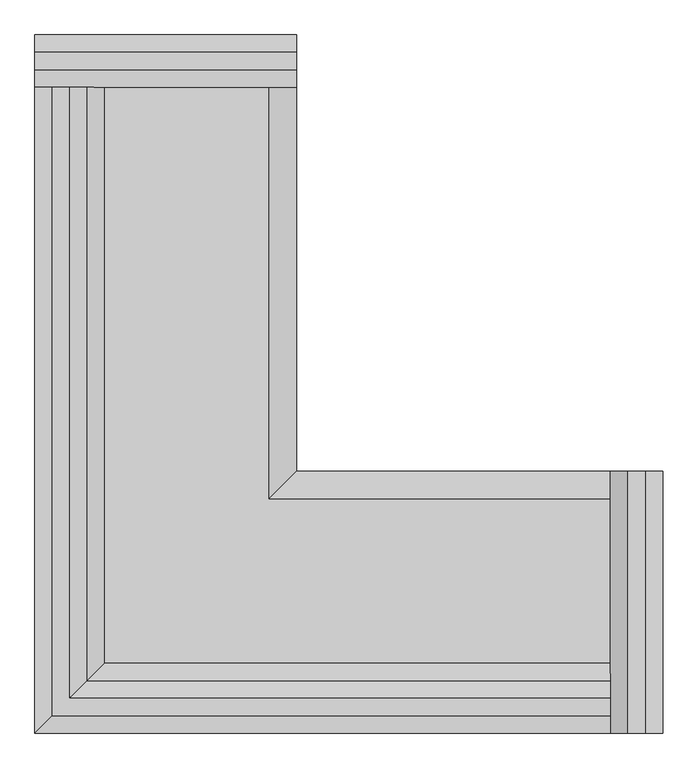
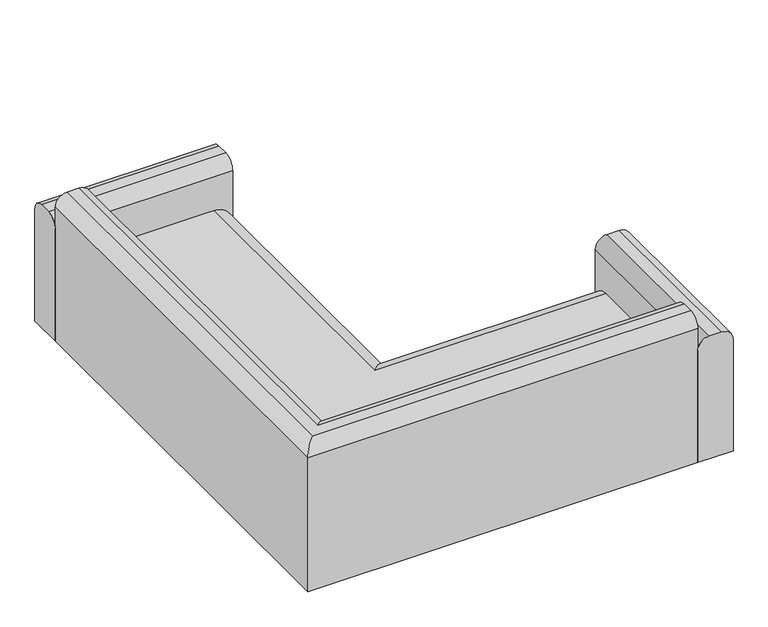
"""IFC4 building model written with IfcOpenShell, lengths in millimetres: furniture geometry, L 型长沙发 : W1800*D1800."""

from ifc_helpers import new_model, si_unit, point, frame, frame_2d, origin, place, context, project, spatial, polyline, circle_curve, ellipse_curve, trimmed, segment, composite_curve, outline, extrude, source, transform, mapped, element, save
from ifc_brep_helpers import plane_surface, cylinder_surface, advanced_brep


def furniture_34d979e8(model_context):
    return source(origin(), model_context, "Body", "SolidModel", [
        extrude(outline(composite_curve([segment(polyline([(900.0, 550.0), (950.0, 550.0)]), True, "CONTINUOUS"), segment(trimmed(circle_curve(frame_2d((950.0, 500.0)), 50.0), [point((950.0, 550.0))], [point((1000.0, 500.0))], False, "CARTESIAN"), True, "CONTINUOUS"), segment(polyline([(1000.0, 500.0), (1000.0, 0.0), (850.0, 0.0), (850.0, 500.0)]), True, "CONTINUOUS"), segment(trimmed(circle_curve(frame_2d((900.0, 500.0)), 50.0), [point((850.0, 500.0))], [point((900.0, 550.0))], False, "CARTESIAN"), True, "CONTINUOUS")], self_intersect=False)), frame((-900.0, 0.0, 0.0), z_axis=(1.0, 0.0, 0.0), x_axis=(0.0, 1.0, 0.0)), (0.0, 0.0, 1.0), 750.0),
        extrude(outline(composite_curve([segment(polyline([(550.0, 850.0), (550.0, 800.0)]), True, "CONTINUOUS"), segment(trimmed(circle_curve(frame_2d((500.0, 800.0)), 50.0), [point((550.0, 800.0))], [point((500.0, 750.0))], False, "CARTESIAN"), True, "CONTINUOUS"), segment(polyline([(500.0, 750.0), (0.0, 750.0), (0.0, 900.0), (500.0, 900.0)]), True, "CONTINUOUS"), segment(trimmed(circle_curve(frame_2d((500.0, 850.0)), 50.0), [point((500.0, 900.0))], [point((550.0, 850.0))], False, "CARTESIAN"), True, "CONTINUOUS")], self_intersect=False)), frame((0.0, -1000.0, 0.0), z_axis=(0.0, 1.0, 0.0), x_axis=(0.0, 0.0, 1.0)), (0.0, 0.0, 1.0), 750.0),
        advanced_brep(
        [(750.0, -950.0, 650.0), (750.0, -1000.0, 600.0), (750.0, -1000.0, 0.0), (750.0, -290.0, 0.0), (750.0, -290.0, 60.0), (750.0, -250.0, 60.0), (750.0, -250.0, 270.0), (750.0, -330.0, 350.0), (750.0, -800.0, 350.0), (750.0, -851.9611614, 609.8058068), (750.0, -900.9901951, 650.0), (-800.9901951, -900.9901951, 650.0), (-800.9901951, 850.0, 650.0), (-850.0, 850.0, 650.0), (-850.0, -950.0, 650.0), (-751.9611614, -851.9611614, 609.8058068), (-700.0, -800.0, 350.0), (-230.0, -330.0, 350.0), (-230.0, 850.0, 350.0), (-700.0, 850.0, 350.0), (-150.0, -250.0, 270.0), (-150.0, -250.0, 60.0), (-190.0, -290.0, 60.0), (-190.0, 850.0, 60.0), (-150.0, 850.0, 60.0), (-190.0, -290.0, 0.0), (-900.0, -1000.0, 0.0), (-900.0, 850.0, 0.0), (-190.0, 850.0, 0.0), (-900.0, -1000.0, 600.0), (-751.9611614, 850.0, 609.8058068), (-150.0, 850.0, 270.0), (-900.0, 850.0, 600.0)],
        [
            (0, 1, circle_curve(frame((750.0, -950.0, 600.0), z_axis=(1.0, 0.0, 0.0), x_axis=(0.0, 1.0, 0.0)), 50.0)),
            (1, 2),
            (2, 3),
            (3, 4),
            (4, 5),
            (5, 6),
            (6, 7, circle_curve(frame((750.0, -330.0, 270.0), z_axis=(1.0, 0.0, 0.0), x_axis=(0.0, 1.0, 0.0)), 80.0)),
            (7, 8),
            (8, 9),
            (9, 10, circle_curve(frame((750.0, -900.9901951, 600.0), z_axis=(1.0, 0.0, 0.0), x_axis=(0.0, 1.0, 0.0)), 50.0)),
            (10, 0),
            (10, 11),
            (11, 12),
            (12, 13),
            (13, 14),
            (14, 0),
            (9, 15),
            (15, 11, ellipse_curve(frame((-800.9901951, -900.9901951, 600.0), z_axis=(0.7071067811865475, -0.7071067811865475, 0.0), x_axis=(0.7071067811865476, 0.7071067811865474, 0.0)), 70.7106781, 50.0)),
            (8, 16),
            (16, 15),
            (7, 17),
            (17, 18),
            (18, 19),
            (19, 16),
            (6, 20),
            (20, 17, ellipse_curve(frame((-230.0, -330.0, 270.0), z_axis=(0.7071067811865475, -0.7071067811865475, 0.0), x_axis=(0.7071067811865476, 0.7071067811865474, 0.0)), 113.137085, 80.0)),
            (5, 21),
            (21, 20),
            (4, 22),
            (22, 23),
            (23, 24),
            (24, 21),
            (3, 25),
            (25, 22),
            (2, 26),
            (26, 27),
            (27, 28),
            (28, 25),
            (1, 29),
            (29, 26),
            (14, 29, ellipse_curve(frame((-850.0, -950.0, 600.0), z_axis=(0.7071067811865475, -0.7071067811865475, 0.0), x_axis=(0.7071067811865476, 0.7071067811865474, 0.0)), 70.7106781, 50.0)),
            (12, 30, circle_curve(frame((-800.9901951, 850.0, 600.0), z_axis=(0.0, 1.0, 0.0), x_axis=(1.0, 0.0, 0.0)), 50.0)),
            (30, 19),
            (18, 31, circle_curve(frame((-230.0, 850.0, 270.0), z_axis=(0.0, 1.0, 0.0), x_axis=(1.0, 0.0, 0.0)), 80.0)),
            (31, 24),
            (23, 28),
            (27, 32),
            (32, 13, circle_curve(frame((-850.0, 850.0, 600.0), z_axis=(0.0, 1.0, 0.0), x_axis=(1.0, 0.0, 0.0)), 50.0)),
            (15, 30),
            (20, 31),
            (29, 32),
        ],
        [
            plane_surface(frame((750.0, -1000.0, -802.3539183), z_axis=(1.0, 0.0, 0.0), x_axis=(0.0, 1.0, 0.0))),
            plane_surface(frame((750.0, -950.0, 650.0), z_axis=(0.0, 0.0, 1.0), x_axis=(-1.0, 0.0, 0.0))),
            cylinder_surface(frame((750.0, -900.9901951, 600.0), z_axis=(1.0, 0.0, 0.0), x_axis=(0.0, 1.0, 0.0)), 50.0),
            plane_surface(frame((750.0, -851.9611614, 609.8058068), z_axis=(0.0, 0.9805806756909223, 0.19611613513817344), x_axis=(-1.0, 0.0, 0.0))),
            plane_surface(frame((750.0, -800.0, 350.0), z_axis=(0.0, 0.0, 1.0), x_axis=(-1.0, 0.0, 0.0))),
            cylinder_surface(frame((750.0, -330.0, 270.0), z_axis=(1.0, 0.0, 0.0), x_axis=(0.0, 1.0, 0.0)), 80.0),
            plane_surface(frame((750.0, -250.0, 270.0), z_axis=(0.0, 1.0, 0.0), x_axis=(-1.0, 0.0, 0.0))),
            plane_surface(frame((750.0, -250.0, 60.0), z_axis=(0.0, 0.0, -1.0), x_axis=(-1.0, 0.0, 0.0))),
            plane_surface(frame((750.0, -290.0, 60.0), z_axis=(0.0, 1.0, 0.0), x_axis=(-1.0, 0.0, 0.0))),
            plane_surface(frame((750.0, -290.0, 0.0), z_axis=(0.0, 0.0, -1.0), x_axis=(-1.0, 0.0, 0.0))),
            plane_surface(frame((750.0, -1000.0, 0.0), z_axis=(0.0, -1.0, 0.0), x_axis=(-1.0, 0.0, 0.0))),
            cylinder_surface(frame((750.0, -950.0, 600.0), z_axis=(1.0, 0.0, 0.0), x_axis=(0.0, 1.0, 0.0)), 50.0),
            plane_surface(frame((-1702.3539183, 850.0, 0.0), z_axis=(0.0, 1.0, 0.0), x_axis=(0.0, 0.0, -1.0))),
            cylinder_surface(frame((-800.9901951, -1000.0, 600.0), z_axis=(0.0, -1.0, 0.0), x_axis=(1.0, 0.0, 0.0)), 50.0),
            plane_surface(frame((-751.9611614, -851.9611614, 609.8058068), z_axis=(0.9805806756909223, 0.0, 0.19611613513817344), x_axis=(0.0, 1.0, 0.0))),
            cylinder_surface(frame((-230.0, -1000.0, 270.0), z_axis=(0.0, -1.0, 0.0), x_axis=(1.0, 0.0, 0.0)), 80.0),
            plane_surface(frame((-150.0, -250.0, 270.0), z_axis=(1.0, 0.0, 0.0), x_axis=(0.0, 1.0, 0.0))),
            plane_surface(frame((-190.0, -290.0, 60.0), z_axis=(1.0, 0.0, 0.0), x_axis=(0.0, 1.0, 0.0))),
            plane_surface(frame((-900.0, -1000.0, 0.0), z_axis=(-1.0, 0.0, 0.0), x_axis=(0.0, 1.0, 0.0))),
            cylinder_surface(frame((-850.0, -1000.0, 600.0), z_axis=(0.0, -1.0, 0.0), x_axis=(1.0, 0.0, 0.0)), 50.0),
        ],
        [
            (0, [[1, 2, 3, 4, 5, 6, 7, 8, 9, 10, 11]]),
            (1, [[12, 13, 14, 15, 16, -11]]),
            (2, [[17, 18, -12, -10]]),
            (3, [[19, 20, -17, -9]]),
            (4, [[21, 22, 23, 24, -19, -8]]),
            (5, [[25, 26, -21, -7]]),
            (6, [[27, 28, -25, -6]]),
            (7, [[29, 30, 31, 32, -27, -5]]),
            (8, [[33, 34, -29, -4]]),
            (9, [[35, 36, 37, 38, -33, -3]]),
            (10, [[39, 40, -35, -2]]),
            (11, [[-16, 41, -39, -1]]),
            (12, [[-14, 42, 43, -23, 44, 45, -31, 46, -37, 47, 48]]),
            (13, [[49, -42, -13, -18]]),
            (14, [[-24, -43, -49, -20]]),
            (15, [[50, -44, -22, -26]]),
            (16, [[-32, -45, -50, -28]]),
            (17, [[-38, -46, -30, -34]]),
            (18, [[51, -47, -36, -40]]),
            (19, [[-15, -48, -51, -41]]),
        ],
    ),
    ])


if __name__ == "__main__":
    model = new_model("IFC4")
    model_context = context("Model", 3, world=origin())
    ifc_project = project(units=[si_unit("LENGTHUNIT", "METRE", prefix="MILLI")], contexts=[model_context])
    site = spatial("IfcSite", under=ifc_project)
    building = spatial("IfcBuilding", under=site)
    placement = place(None, origin())
    furniture_shape = furniture_34d979e8(model_context)
    element("IfcFurniture", 1, ObjectType="L 型长沙发 : W1800*D1800", at=placement, inside=building, context=model_context, shape_type="MappedRepresentation", body=[
        mapped(furniture_shape, transform((0.0, 0.0, 0.0), x_axis=(1.0, 0.0, 0.0), y_axis=(0.0, 1.0, 0.0), z_axis=(0.0, 0.0, 1.0))),
    ])
    save(model, "model.ifc")
